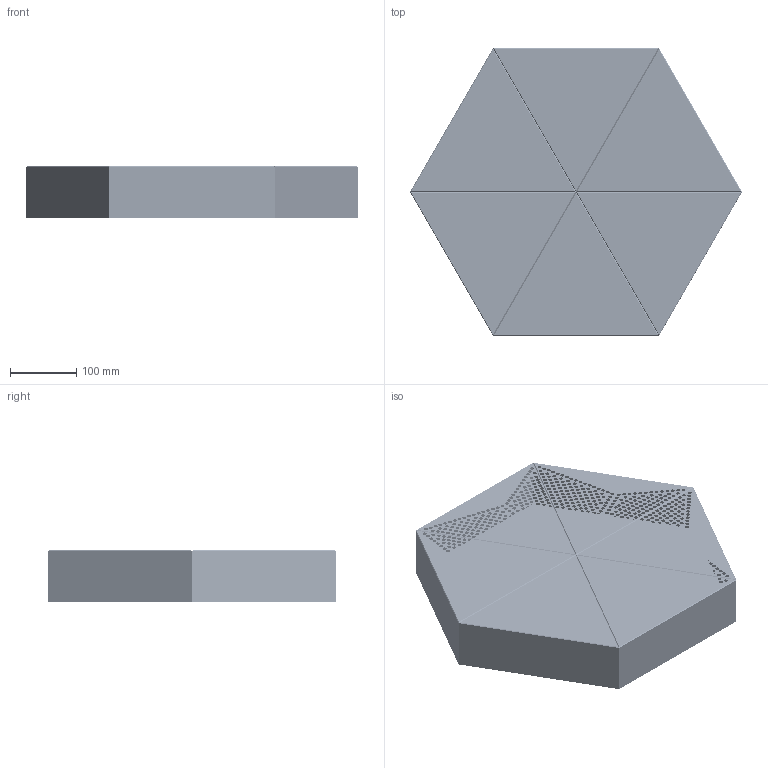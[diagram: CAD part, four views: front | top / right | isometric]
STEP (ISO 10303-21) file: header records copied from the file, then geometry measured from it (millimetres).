
FILE_DESCRIPTION(/* description */ (''),/* implementation_level */ '2;1');
FILE_NAME(/* name */ 'A03_HEXAGO_P-A_FLAT',/* time_stamp */ '2025-06-24T16:04:02+02:00',/* author */ (''),/* organization */ (''),/* preprocessor_version */ 'ST-DEVELOPER v16.5',/* originating_system */ 'Rhino 7.38',/* authorisation */ '');
FILE_SCHEMA (('CONFIG_CONTROL_DESIGN'));
Length unit declared in the file: millimetre
Products named in the file (1): Document
Bounding box: 500 x 433.01 x 77 mm (x, y, z)
Surface area: 391459 mm2 (no closed solid volume)
Topology: 0 solids, 1 shells, 31 faces, 1794 edges, 1765 vertices
Faces by surface type: plane 31
Entity records: 26929 total; most frequent: CARTESIAN_POINT 17710, ORIENTED_EDGE 1854, EDGE_CURVE 1794, EDGE_LOOP 1765, VERTEX_POINT 1765, FACE_BOUND 1734, B_SPLINE_CURVE_WITH_KNOTS 60, DIRECTION 35
